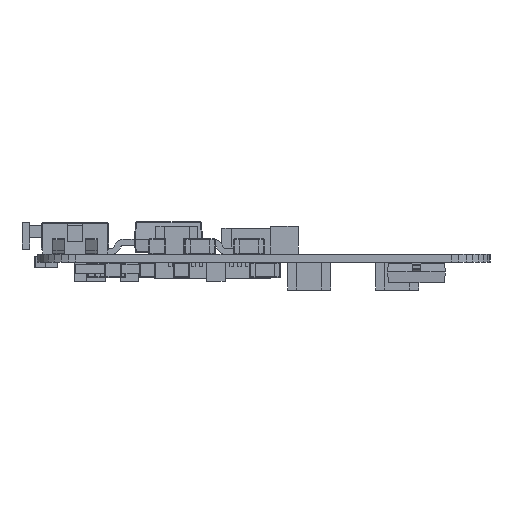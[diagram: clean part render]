
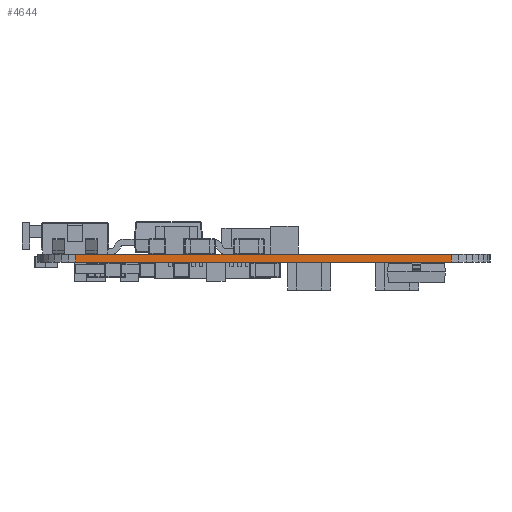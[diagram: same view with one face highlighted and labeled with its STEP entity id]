
A CAD part, left-side view. The second image highlights one B-rep face of the part: STEP entity #4644.
In plain terms, the highlighted planar face has unit normal (-1, -0.001, 0).
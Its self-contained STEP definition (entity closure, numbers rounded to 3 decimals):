
#247 = PLANE('',#248);
#248 = AXIS2_PLACEMENT_3D('',#249,#250,#251);
#249 = CARTESIAN_POINT('',(-20.97,-9.398,0.411));
#250 = DIRECTION('',(0.,0.,-1.));
#251 = DIRECTION('',(-1.,0.,0.));
#301 = PLANE('',#302);
#302 = AXIS2_PLACEMENT_3D('',#303,#304,#305);
#303 = CARTESIAN_POINT('',(-20.97,-9.398,0.));
#304 = DIRECTION('',(0.,0.,-1.));
#305 = DIRECTION('',(-1.,0.,0.));
#4536 = PLANE('',#4537);
#4537 = AXIS2_PLACEMENT_3D('',#4538,#4539,#4540);
#4538 = CARTESIAN_POINT('',(-47.691,12.494,0.));
#4539 = DIRECTION('',(0.995,-0.098,0.));
#4540 = DIRECTION('',(-0.098,-0.995,0.));
#4574 = VERTEX_POINT('',#4575);
#4575 = CARTESIAN_POINT('',(-47.73,12.102,0.411));
#4596 = EDGE_CURVE('',#4597,#4574,#4599,.T.);
#4597 = VERTEX_POINT('',#4598);
#4598 = CARTESIAN_POINT('',(-47.73,12.102,0.));
#4599 = SURFACE_CURVE('',#4600,(#4604,#4611),.PCURVE_S1.);
#4600 = LINE('',#4601,#4602);
#4601 = CARTESIAN_POINT('',(-47.73,12.102,0.));
#4602 = VECTOR('',#4603,1.);
#4603 = DIRECTION('',(0.,0.,1.));
#4604 = PCURVE('',#4536,#4605);
#4605 = DEFINITIONAL_REPRESENTATION('',(#4606),#4610);
#4606 = LINE('',#4607,#4608);
#4607 = CARTESIAN_POINT('',(0.394,0.));
#4608 = VECTOR('',#4609,1.);
#4609 = DIRECTION('',(0.,-1.));
#4610 = ( GEOMETRIC_REPRESENTATION_CONTEXT(2) 
PARAMETRIC_REPRESENTATION_CONTEXT() REPRESENTATION_CONTEXT('2D SPACE',''
  ) );
#4611 = PCURVE('',#4612,#4617);
#4612 = PLANE('',#4613);
#4613 = AXIS2_PLACEMENT_3D('',#4614,#4615,#4616);
#4614 = CARTESIAN_POINT('',(-47.73,12.102,0.));
#4615 = DIRECTION('',(1.,0.,0.));
#4616 = DIRECTION('',(0.,-1.,0.));
#4617 = DEFINITIONAL_REPRESENTATION('',(#4618),#4622);
#4618 = LINE('',#4619,#4620);
#4619 = CARTESIAN_POINT('',(0.,0.));
#4620 = VECTOR('',#4621,1.);
#4621 = DIRECTION('',(0.,-1.));
#4622 = ( GEOMETRIC_REPRESENTATION_CONTEXT(2) 
PARAMETRIC_REPRESENTATION_CONTEXT() REPRESENTATION_CONTEXT('2D SPACE',''
  ) );
#4644 = ADVANCED_FACE('',(#4645),#4612,.F.);
#4645 = FACE_BOUND('',#4646,.F.);
#4646 = EDGE_LOOP('',(#4647,#4648,#4671,#4699));
#4647 = ORIENTED_EDGE('',*,*,#4596,.T.);
#4648 = ORIENTED_EDGE('',*,*,#4649,.T.);
#4649 = EDGE_CURVE('',#4574,#4650,#4652,.T.);
#4650 = VERTEX_POINT('',#4651);
#4651 = CARTESIAN_POINT('',(-47.72,-7.398,0.411));
#4652 = SURFACE_CURVE('',#4653,(#4657,#4664),.PCURVE_S1.);
#4653 = LINE('',#4654,#4655);
#4654 = CARTESIAN_POINT('',(-47.73,12.102,0.411));
#4655 = VECTOR('',#4656,1.);
#4656 = DIRECTION('',(0.,-1.,0.));
#4657 = PCURVE('',#4612,#4658);
#4658 = DEFINITIONAL_REPRESENTATION('',(#4659),#4663);
#4659 = LINE('',#4660,#4661);
#4660 = CARTESIAN_POINT('',(0.,-0.411));
#4661 = VECTOR('',#4662,1.);
#4662 = DIRECTION('',(1.,0.));
#4663 = ( GEOMETRIC_REPRESENTATION_CONTEXT(2) 
PARAMETRIC_REPRESENTATION_CONTEXT() REPRESENTATION_CONTEXT('2D SPACE',''
  ) );
#4664 = PCURVE('',#247,#4665);
#4665 = DEFINITIONAL_REPRESENTATION('',(#4666),#4670);
#4666 = LINE('',#4667,#4668);
#4667 = CARTESIAN_POINT('',(26.76,21.5));
#4668 = VECTOR('',#4669,1.);
#4669 = DIRECTION('',(0.,-1.));
#4670 = ( GEOMETRIC_REPRESENTATION_CONTEXT(2) 
PARAMETRIC_REPRESENTATION_CONTEXT() REPRESENTATION_CONTEXT('2D SPACE',''
  ) );
#4671 = ORIENTED_EDGE('',*,*,#4672,.F.);
#4672 = EDGE_CURVE('',#4673,#4650,#4675,.T.);
#4673 = VERTEX_POINT('',#4674);
#4674 = CARTESIAN_POINT('',(-47.72,-7.398,0.));
#4675 = SURFACE_CURVE('',#4676,(#4680,#4687),.PCURVE_S1.);
#4676 = LINE('',#4677,#4678);
#4677 = CARTESIAN_POINT('',(-47.72,-7.398,0.));
#4678 = VECTOR('',#4679,1.);
#4679 = DIRECTION('',(0.,0.,1.));
#4680 = PCURVE('',#4612,#4681);
#4681 = DEFINITIONAL_REPRESENTATION('',(#4682),#4686);
#4682 = LINE('',#4683,#4684);
#4683 = CARTESIAN_POINT('',(19.5,0.));
#4684 = VECTOR('',#4685,1.);
#4685 = DIRECTION('',(0.,-1.));
#4686 = ( GEOMETRIC_REPRESENTATION_CONTEXT(2) 
PARAMETRIC_REPRESENTATION_CONTEXT() REPRESENTATION_CONTEXT('2D SPACE',''
  ) );
#4687 = PCURVE('',#4688,#4693);
#4688 = PLANE('',#4689);
#4689 = AXIS2_PLACEMENT_3D('',#4690,#4691,#4692);
#4690 = CARTESIAN_POINT('',(-47.72,-7.398,0.));
#4691 = DIRECTION('',(0.997,0.074,0.));
#4692 = DIRECTION('',(0.074,-0.997,0.));
#4693 = DEFINITIONAL_REPRESENTATION('',(#4694),#4698);
#4694 = LINE('',#4695,#4696);
#4695 = CARTESIAN_POINT('',(0.,0.));
#4696 = VECTOR('',#4697,1.);
#4697 = DIRECTION('',(0.,-1.));
#4698 = ( GEOMETRIC_REPRESENTATION_CONTEXT(2) 
PARAMETRIC_REPRESENTATION_CONTEXT() REPRESENTATION_CONTEXT('2D SPACE',''
  ) );
#4699 = ORIENTED_EDGE('',*,*,#4700,.F.);
#4700 = EDGE_CURVE('',#4597,#4673,#4701,.T.);
#4701 = SURFACE_CURVE('',#4702,(#4706,#4713),.PCURVE_S1.);
#4702 = LINE('',#4703,#4704);
#4703 = CARTESIAN_POINT('',(-47.73,12.102,0.));
#4704 = VECTOR('',#4705,1.);
#4705 = DIRECTION('',(0.,-1.,0.));
#4706 = PCURVE('',#4612,#4707);
#4707 = DEFINITIONAL_REPRESENTATION('',(#4708),#4712);
#4708 = LINE('',#4709,#4710);
#4709 = CARTESIAN_POINT('',(0.,0.));
#4710 = VECTOR('',#4711,1.);
#4711 = DIRECTION('',(1.,0.));
#4712 = ( GEOMETRIC_REPRESENTATION_CONTEXT(2) 
PARAMETRIC_REPRESENTATION_CONTEXT() REPRESENTATION_CONTEXT('2D SPACE',''
  ) );
#4713 = PCURVE('',#301,#4714);
#4714 = DEFINITIONAL_REPRESENTATION('',(#4715),#4719);
#4715 = LINE('',#4716,#4717);
#4716 = CARTESIAN_POINT('',(26.76,21.5));
#4717 = VECTOR('',#4718,1.);
#4718 = DIRECTION('',(0.,-1.));
#4719 = ( GEOMETRIC_REPRESENTATION_CONTEXT(2) 
PARAMETRIC_REPRESENTATION_CONTEXT() REPRESENTATION_CONTEXT('2D SPACE',''
  ) );
